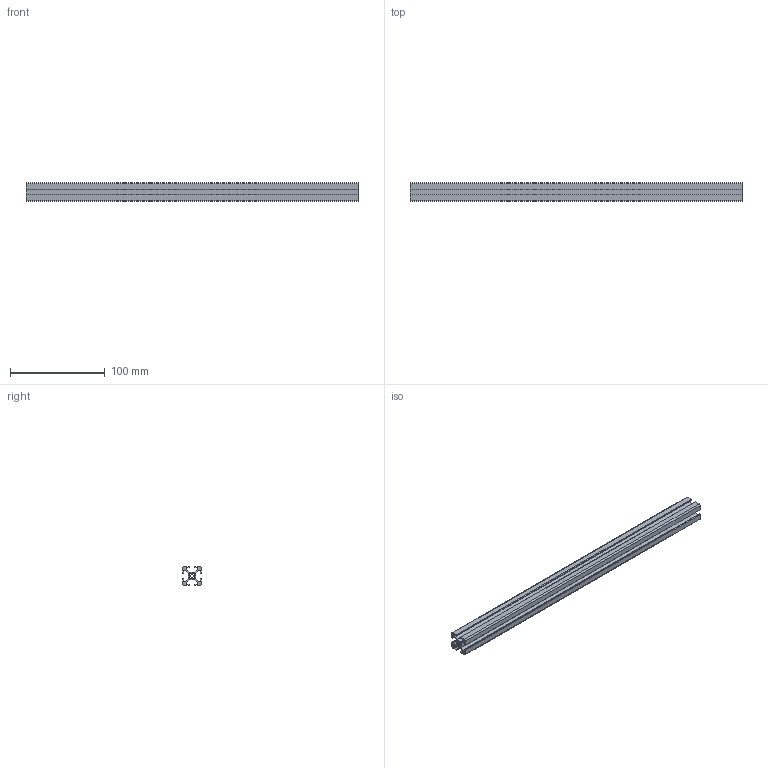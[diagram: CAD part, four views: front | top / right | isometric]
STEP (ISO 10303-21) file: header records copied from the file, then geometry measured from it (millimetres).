
FILE_DESCRIPTION(/* description */ ('STEP AP242 Edition 2','CAx-IF Rec.Pracs.---Representation and Presentation of Product Manufacturing Information (PMI)---4.0---2014-10-13','CAx-IF Rec.Pracs.---3D Tessellated Geometry---0.4---2014-09-14','2;1','CAx-IF Rec.Pracs.---User Defined Attributes---1.5---2016-08-15'),/* implementation_level */ '2;1');
FILE_NAME(/* name */ 'Assembly 1 - Part 2 (8)',/* time_stamp */ '2026-10-08T06:00:15Z',/* author */ (''),/* organization */ (''),/* preprocessor_version */ 'ST-DEVELOPER v20',/* originating_system */ 'ONSHAPE BY PTC INC, 1.221',/* authorisation */ ' ');
FILE_SCHEMA (('AP242_MANAGED_MODEL_BASED_3D_ENGINEERING_MIM_LF { 1 0 10303 442 3 1 4 }'));
Length unit declared in the file: metre
Products named in the file (1): Part 2
Bounding box: 350 x 20 x 20 mm (x, y, z)
Volume: 56873.3 mm3; surface area: 63659.9 mm2
Topology: 1 solids, 1 shells, 106 faces, 318 edges, 214 vertices
Faces by surface type: bspline 106
Entity records: 3822 total; most frequent: CARTESIAN_POINT 1181, ORIENTED_EDGE 636, DIRECTION 438, EDGE_CURVE 318, VERTEX_POINT 214, LINE 200, VECTOR 200, AXIS2_PLACEMENT_3D 119
